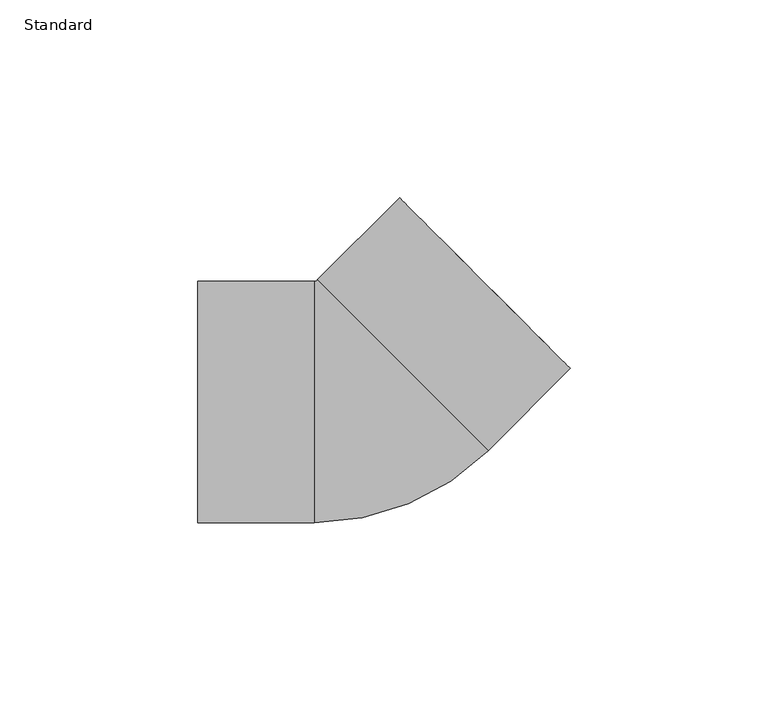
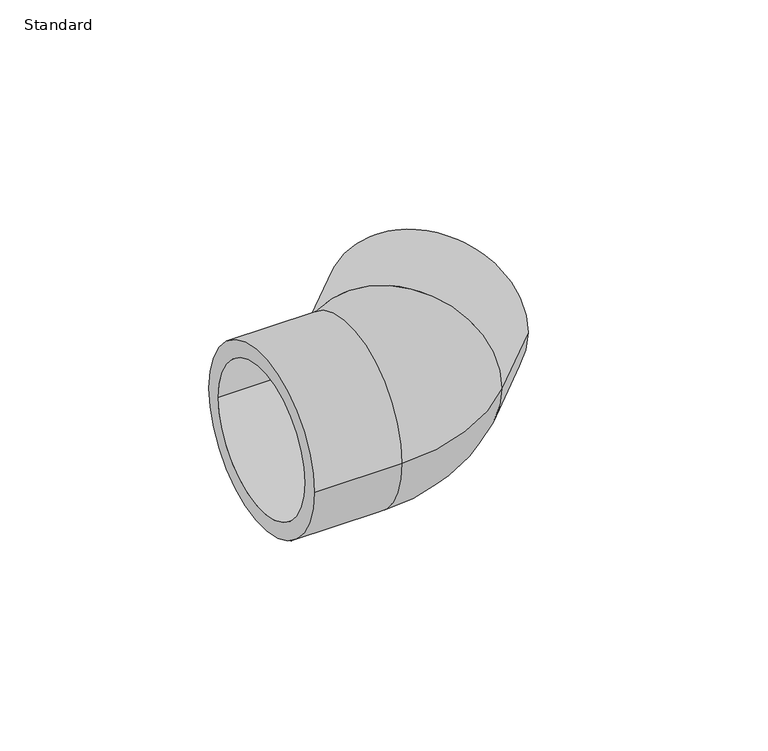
"""IFC4 building model written with IfcOpenShell, lengths in millimetres: pipe fitting geometry, Durapipe_PipeFitting_PVC_Elbow45deg : Standard."""

from ifc_helpers import new_model, si_unit, point, frame, origin, place, context, project, spatial, polyline, circle_curve, ellipse_curve, trimmed, source, transform, mapped, element, save
from ifc_brep_helpers import plane_surface, cylinder_surface, revolved_surface, advanced_brep


def standard_ba260039(model_context):
    return source(origin(), model_context, "Body", "AdvancedBrep", [
        advanced_brep(
        [(-42.5, -30.5, 0.0), (-42.5, 30.5, 0.0), (-42.5, -25.0, 0.0), (-42.5, 25.0, 0.0), (-13.1335137, -30.5, 0.0), (-13.1335137, 30.5, 0.0), (30.8535534, -12.2799603, 0.0), (-12.2799603, 30.8535534, 0.0), (51.618795, 8.4852814, 0.0), (8.4852814, 51.618795, 0.0), (12.3743687, 47.7297077, 0.0), (47.7297077, 12.3743687, 0.0), (-11.5, 25.0, 0.0), (-11.5, -25.0, 0.0), (-11.5, 0.0, 0.0), (-9.5459415, 25.8093975, 0.0), (8.131728, 8.131728, 0.0), (25.8093975, -9.5459415, 0.0)],
        [
            (0, 1, circle_curve(frame((-42.5, 0.0, 0.0), z_axis=(-1.0, 0.0, 0.0), x_axis=(0.0, 1.0, 0.0)), 30.5)),
            (1, 0, circle_curve(frame((-42.5, 0.0, 0.0), z_axis=(-1.0, 0.0, 0.0), x_axis=(0.0, 1.0, 0.0)), 30.5)),
            (2, 3, circle_curve(frame((-42.5, 0.0, 0.0), z_axis=(1.0, 0.0, 0.0), x_axis=(0.0, -1.0, 0.0)), 25.0)),
            (3, 2, circle_curve(frame((-42.5, 0.0, 0.0), z_axis=(1.0, 0.0, 0.0), x_axis=(0.0, -1.0, 0.0)), 25.0)),
            (0, 4),
            (4, 5, circle_curve(frame((-13.1335137, 0.0, 0.0), z_axis=(-1.0, 0.0, 0.0), x_axis=(0.0, 1.0, 0.0)), 30.5)),
            (5, 1),
            (5, 4, circle_curve(frame((-13.1335137, 0.0, 0.0), z_axis=(-1.0, 0.0, 0.0), x_axis=(0.0, 1.0, 0.0)), 30.5)),
            (4, 6, circle_curve(frame((-13.1335137, 31.7071068, 0.0), z_axis=(0.0, 0.0, 1.0), x_axis=(0.0, -1.0, 0.0)), 62.2071068)),
            (6, 7, circle_curve(frame((9.2867966, 9.2867966, 0.0), z_axis=(-0.707106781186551, -0.707106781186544, 0.0), x_axis=(-0.707106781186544, 0.707106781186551, 0.0)), 30.5)),
            (7, 5, circle_curve(frame((-13.1335137, 31.7071068, 0.0), z_axis=(0.0, 0.0, -1.0), x_axis=(0.0, -1.0, 0.0)), 1.2071068)),
            (7, 6, circle_curve(frame((9.2867966, 9.2867966, 0.0), z_axis=(-0.707106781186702, -0.707106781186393, 0.0), x_axis=(-0.707106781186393, 0.707106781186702, 0.0)), 30.5)),
            (8, 9, circle_curve(frame((30.0520382, 30.0520382, 0.0), z_axis=(0.7071067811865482, 0.7071067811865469, 0.0), x_axis=(-0.7071067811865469, 0.7071067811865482, 0.0)), 30.5)),
            (9, 8, circle_curve(frame((30.0520382, 30.0520382, 0.0), z_axis=(0.7071067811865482, 0.7071067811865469, 0.0), x_axis=(-0.7071067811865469, 0.7071067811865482, 0.0)), 30.5)),
            (10, 11, circle_curve(frame((30.0520382, 30.0520382, 0.0), z_axis=(-0.707106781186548, -0.707106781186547, 0.0), x_axis=(0.707106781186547, -0.707106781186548, 0.0)), 25.0)),
            (11, 10, circle_curve(frame((30.0520382, 30.0520382, 0.0), z_axis=(-0.707106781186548, -0.707106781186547, 0.0), x_axis=(0.707106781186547, -0.707106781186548, 0.0)), 25.0)),
            (6, 8),
            (9, 7),
            (12, 3),
            (2, 13),
            (13, 12, circle_curve(frame((-11.5, 0.0, 0.0), z_axis=(1.0, 0.0, 0.0), x_axis=(0.0, -1.0, 0.0)), 25.0)),
            (12, 13, circle_curve(frame((-11.5, 0.0, 0.0), z_axis=(1.0, 0.0, 0.0), x_axis=(0.0, -1.0, 0.0)), 25.0)),
            (13, 14),
            (14, 12),
            (15, 16),
            (16, 17),
            (17, 15, circle_curve(frame((8.131728, 8.131728, 0.0), z_axis=(0.707106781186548, 0.707106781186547, 0.0), x_axis=(0.707106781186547, -0.707106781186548, 0.0)), 25.0)),
            (15, 17, circle_curve(frame((8.131728, 8.131728, 0.0), z_axis=(0.707106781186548, 0.707106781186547, 0.0), x_axis=(0.707106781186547, -0.707106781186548, 0.0)), 25.0)),
            (17, 11),
            (10, 15),
        ],
        [
            plane_surface(frame((-42.5, 0.0, 0.0), z_axis=(-1.0, 0.0, 0.0), x_axis=(0.0, 0.0, 1.0))),
            cylinder_surface(frame((-42.5, 0.0, 0.0), z_axis=(-1.0, 0.0, 0.0), x_axis=(0.0, 1.0, 0.0)), 30.5),
            revolved_surface(trimmed(ellipse_curve(frame((-13.1335137, 0.0, 0.0), z_axis=(-1.0, 0.0, 0.0), x_axis=(0.0, 1.0, 0.0)), 30.5, 30.5), [point((-13.1335137, -30.5, 0.0))], [point((-13.1335137, 30.5, 0.0))], True, "CARTESIAN"), (-13.1335137, 31.7071068, 0.0), (0.0, 0.0, 1.0)),
            revolved_surface(trimmed(ellipse_curve(frame((-13.1335137, 0.0, 0.0), z_axis=(-1.0, 0.0, 0.0), x_axis=(0.0, 1.0, 0.0)), 30.5, 30.5), [point((-13.1335137, 30.5, 0.0))], [point((-13.1335137, -30.5, 0.0))], True, "CARTESIAN"), (-13.1335137, 31.7071068, 0.0), (0.0, 0.0, 1.0)),
            plane_surface(frame((30.0520382, 30.0520382, 0.0), z_axis=(0.7071067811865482, 0.7071067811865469, 0.0), x_axis=(0.0, 0.0, 1.0))),
            cylinder_surface(frame((9.2867966, 9.2867966, 0.0), z_axis=(-0.7071067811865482, -0.7071067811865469, 0.0), x_axis=(-0.7071067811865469, 0.7071067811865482, 0.0)), 30.5),
            revolved_surface(polyline([(-11.5, -25.0, 0.0), (-42.5, -25.0, 0.0)]), (2000.0, 0.0, 0.0), (1.0, 0.0, 0.0)),
            plane_surface(frame((-11.5, 0.0, 0.0), z_axis=(-1.0, 0.0, 0.0), x_axis=(0.0, -1.0, 0.0))),
            plane_surface(frame((8.131728, 8.131728, 0.0), z_axis=(0.707106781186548, 0.707106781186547, 0.0), x_axis=(0.707106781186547, -0.707106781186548, 0.0))),
            revolved_surface(polyline([(47.72970772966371, 12.374368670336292, 0.0), (25.80939752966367, -9.545941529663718, 0.0)]), (0.0, 0.0, 0.0), (0.707106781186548, 0.707106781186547, 0.0)),
        ],
        [
            (0, [[1, 2], [3, 4]]),
            (1, [[-1, 5, 6, 7]]),
            (1, [[-2, -7, 8, -5]]),
            (2, [[-6, 9, 10, 11]]),
            (3, [[-8, -11, 12, -9]]),
            (4, [[13, 14], [15, 16]]),
            (5, [[-10, 17, -14, 18]]),
            (5, [[-12, -18, -13, -17]]),
            (6, [[19, -3, 20, 21]]),
            (6, [[-19, 22, -20, -4]]),
            (7, [[-21, 23, 24]]),
            (7, [[-22, -24, -23]]),
            (8, [[25, 26, 27]]),
            (8, [[-25, 28, -26]]),
            (9, [[-27, 29, -15, 30]]),
            (9, [[-28, -30, -16, -29]]),
        ],
    ),
    ])


if __name__ == "__main__":
    model = new_model("IFC4")
    model_context = context("Model", 3, world=origin())
    ifc_project = project(units=[si_unit("LENGTHUNIT", "METRE", prefix="MILLI")], contexts=[model_context])
    site = spatial("IfcSite", under=ifc_project)
    building = spatial("IfcBuilding", under=site)
    placement = place(None, origin())
    standard_shape = standard_ba260039(model_context)
    element("IfcPipeFitting", 1, ObjectType="Durapipe_PipeFitting_PVC_Elbow45deg : Standard", at=placement, inside=building, context=model_context, shape_type="MappedRepresentation", body=[
        mapped(standard_shape, transform((0.0, 0.0, 0.0), x_axis=(1.0, 0.0, 0.0), y_axis=(0.0, 1.0, 0.0), z_axis=(0.0, 0.0, 1.0))),
    ])
    save(model, "model.ifc")
